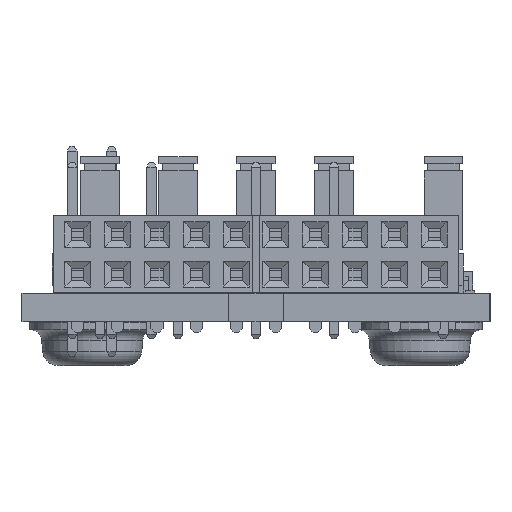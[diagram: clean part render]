
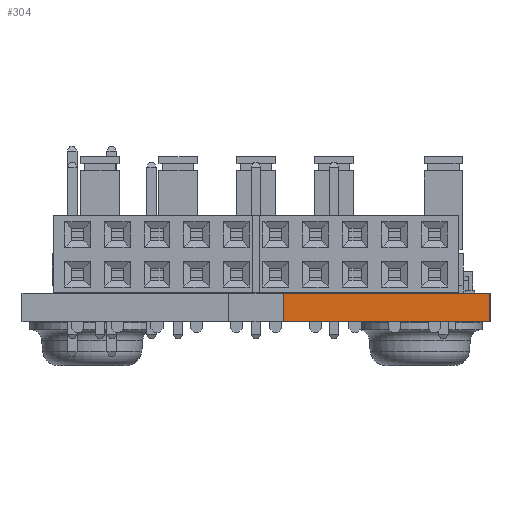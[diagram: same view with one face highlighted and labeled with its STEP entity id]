
A CAD part, left-side view. The second image highlights one B-rep face of the part: STEP entity #304.
In plain terms, the highlighted planar face has unit normal (-1, 0, 0).
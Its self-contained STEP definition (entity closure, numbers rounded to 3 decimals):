
#304 = ADVANCED_FACE('',(#305),#319,.F.);
#305 = FACE_BOUND('',#306,.F.);
#306 = EDGE_LOOP('',(#307,#342,#370,#398));
#307 = ORIENTED_EDGE('',*,*,#308,.T.);
#308 = EDGE_CURVE('',#309,#311,#313,.T.);
#309 = VERTEX_POINT('',#310);
#310 = CARTESIAN_POINT('',(0.,13.25,0.));
#311 = VERTEX_POINT('',#312);
#312 = CARTESIAN_POINT('',(0.,13.25,1.827));
#313 = SURFACE_CURVE('',#314,(#318,#330),.PCURVE_S1.);
#314 = LINE('',#315,#316);
#315 = CARTESIAN_POINT('',(0.,13.25,0.));
#316 = VECTOR('',#317,1.);
#317 = DIRECTION('',(0.,0.,1.));
#318 = PCURVE('',#319,#324);
#319 = PLANE('',#320);
#320 = AXIS2_PLACEMENT_3D('',#321,#322,#323);
#321 = CARTESIAN_POINT('',(0.,13.25,0.));
#322 = DIRECTION('',(1.,0.,0.));
#323 = DIRECTION('',(0.,-1.,0.));
#324 = DEFINITIONAL_REPRESENTATION('',(#325),#329);
#325 = LINE('',#326,#327);
#326 = CARTESIAN_POINT('',(0.,0.));
#327 = VECTOR('',#328,1.);
#328 = DIRECTION('',(0.,-1.));
#329 = ( GEOMETRIC_REPRESENTATION_CONTEXT(2) 
PARAMETRIC_REPRESENTATION_CONTEXT() REPRESENTATION_CONTEXT('2D SPACE',''
  ) );
#330 = PCURVE('',#331,#336);
#331 = PLANE('',#332);
#332 = AXIS2_PLACEMENT_3D('',#333,#334,#335);
#333 = CARTESIAN_POINT('',(-6.5,13.25,0.));
#334 = DIRECTION('',(0.,1.,0.));
#335 = DIRECTION('',(1.,0.,0.));
#336 = DEFINITIONAL_REPRESENTATION('',(#337),#341);
#337 = LINE('',#338,#339);
#338 = CARTESIAN_POINT('',(6.5,0.));
#339 = VECTOR('',#340,1.);
#340 = DIRECTION('',(0.,-1.));
#341 = ( GEOMETRIC_REPRESENTATION_CONTEXT(2) 
PARAMETRIC_REPRESENTATION_CONTEXT() REPRESENTATION_CONTEXT('2D SPACE',''
  ) );
#342 = ORIENTED_EDGE('',*,*,#343,.T.);
#343 = EDGE_CURVE('',#311,#344,#346,.T.);
#344 = VERTEX_POINT('',#345);
#345 = CARTESIAN_POINT('',(0.,0.,1.827));
#346 = SURFACE_CURVE('',#347,(#351,#358),.PCURVE_S1.);
#347 = LINE('',#348,#349);
#348 = CARTESIAN_POINT('',(0.,13.25,1.827));
#349 = VECTOR('',#350,1.);
#350 = DIRECTION('',(0.,-1.,0.));
#351 = PCURVE('',#319,#352);
#352 = DEFINITIONAL_REPRESENTATION('',(#353),#357);
#353 = LINE('',#354,#355);
#354 = CARTESIAN_POINT('',(0.,-1.827));
#355 = VECTOR('',#356,1.);
#356 = DIRECTION('',(1.,0.));
#357 = ( GEOMETRIC_REPRESENTATION_CONTEXT(2) 
PARAMETRIC_REPRESENTATION_CONTEXT() REPRESENTATION_CONTEXT('2D SPACE',''
  ) );
#358 = PCURVE('',#359,#364);
#359 = PLANE('',#360);
#360 = AXIS2_PLACEMENT_3D('',#361,#362,#363);
#361 = CARTESIAN_POINT('',(0.,13.25,1.827));
#362 = DIRECTION('',(0.,0.,-1.));
#363 = DIRECTION('',(-1.,0.,0.));
#364 = DEFINITIONAL_REPRESENTATION('',(#365),#369);
#365 = LINE('',#366,#367);
#366 = CARTESIAN_POINT('',(0.,0.));
#367 = VECTOR('',#368,1.);
#368 = DIRECTION('',(0.,-1.));
#369 = ( GEOMETRIC_REPRESENTATION_CONTEXT(2) 
PARAMETRIC_REPRESENTATION_CONTEXT() REPRESENTATION_CONTEXT('2D SPACE',''
  ) );
#370 = ORIENTED_EDGE('',*,*,#371,.F.);
#371 = EDGE_CURVE('',#372,#344,#374,.T.);
#372 = VERTEX_POINT('',#373);
#373 = CARTESIAN_POINT('',(0.,0.,0.));
#374 = SURFACE_CURVE('',#375,(#379,#386),.PCURVE_S1.);
#375 = LINE('',#376,#377);
#376 = CARTESIAN_POINT('',(0.,0.,0.));
#377 = VECTOR('',#378,1.);
#378 = DIRECTION('',(0.,0.,1.));
#379 = PCURVE('',#319,#380);
#380 = DEFINITIONAL_REPRESENTATION('',(#381),#385);
#381 = LINE('',#382,#383);
#382 = CARTESIAN_POINT('',(13.25,0.));
#383 = VECTOR('',#384,1.);
#384 = DIRECTION('',(0.,-1.));
#385 = ( GEOMETRIC_REPRESENTATION_CONTEXT(2) 
PARAMETRIC_REPRESENTATION_CONTEXT() REPRESENTATION_CONTEXT('2D SPACE',''
  ) );
#386 = PCURVE('',#387,#392);
#387 = PLANE('',#388);
#388 = AXIS2_PLACEMENT_3D('',#389,#390,#391);
#389 = CARTESIAN_POINT('',(0.,0.,0.));
#390 = DIRECTION('',(0.,1.,0.));
#391 = DIRECTION('',(1.,0.,0.));
#392 = DEFINITIONAL_REPRESENTATION('',(#393),#397);
#393 = LINE('',#394,#395);
#394 = CARTESIAN_POINT('',(0.,0.));
#395 = VECTOR('',#396,1.);
#396 = DIRECTION('',(0.,-1.));
#397 = ( GEOMETRIC_REPRESENTATION_CONTEXT(2) 
PARAMETRIC_REPRESENTATION_CONTEXT() REPRESENTATION_CONTEXT('2D SPACE',''
  ) );
#398 = ORIENTED_EDGE('',*,*,#399,.F.);
#399 = EDGE_CURVE('',#309,#372,#400,.T.);
#400 = SURFACE_CURVE('',#401,(#405,#412),.PCURVE_S1.);
#401 = LINE('',#402,#403);
#402 = CARTESIAN_POINT('',(0.,13.25,0.));
#403 = VECTOR('',#404,1.);
#404 = DIRECTION('',(0.,-1.,0.));
#405 = PCURVE('',#319,#406);
#406 = DEFINITIONAL_REPRESENTATION('',(#407),#411);
#407 = LINE('',#408,#409);
#408 = CARTESIAN_POINT('',(0.,0.));
#409 = VECTOR('',#410,1.);
#410 = DIRECTION('',(1.,0.));
#411 = ( GEOMETRIC_REPRESENTATION_CONTEXT(2) 
PARAMETRIC_REPRESENTATION_CONTEXT() REPRESENTATION_CONTEXT('2D SPACE',''
  ) );
#412 = PCURVE('',#413,#418);
#413 = PLANE('',#414);
#414 = AXIS2_PLACEMENT_3D('',#415,#416,#417);
#415 = CARTESIAN_POINT('',(0.,13.25,0.));
#416 = DIRECTION('',(0.,0.,-1.));
#417 = DIRECTION('',(-1.,0.,0.));
#418 = DEFINITIONAL_REPRESENTATION('',(#419),#423);
#419 = LINE('',#420,#421);
#420 = CARTESIAN_POINT('',(0.,0.));
#421 = VECTOR('',#422,1.);
#422 = DIRECTION('',(0.,-1.));
#423 = ( GEOMETRIC_REPRESENTATION_CONTEXT(2) 
PARAMETRIC_REPRESENTATION_CONTEXT() REPRESENTATION_CONTEXT('2D SPACE',''
  ) );
